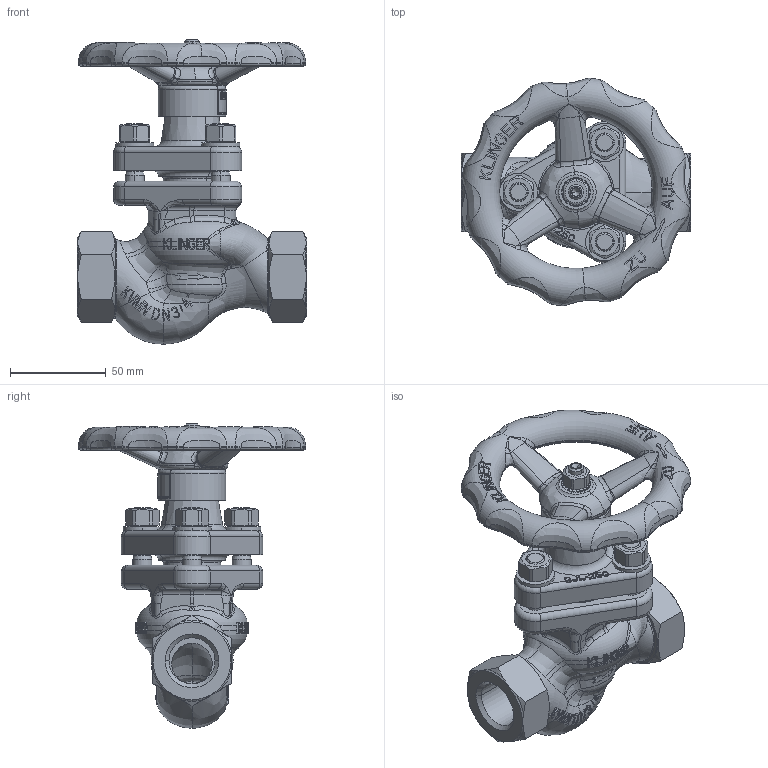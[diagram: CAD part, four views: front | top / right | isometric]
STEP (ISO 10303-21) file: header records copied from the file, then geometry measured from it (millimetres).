
FILE_DESCRIPTION((''),'2;1');
FILE_NAME('KVMN-G34S-----P016DGG_SW0001','2015-07-09T',('jeitlers'),('RAND'),'PRO/ENGINEER BY PARAMETRIC TECHNOLOGY CORPORATION, 2013410','PRO/ENGINEER BY PARAMETRIC TECHNOLOGY CORPORATION, 2013410','');
FILE_SCHEMA(('CONFIG_CONTROL_DESIGN'));
Products named in the file (1): KVMN-G34S-----P016DGG_SW0001
Bounding box: 120 x 119.05 x 159.25 mm (x, y, z)
Volume: 311750.4 mm3; surface area: 107112.3 mm2
Topology: 3 solids, 3 shells, 2572 faces, 6935 edges, 4430 vertices
Faces by surface type: plane 1479, bspline 481, cylinder 319, torus 148, cone 126, sphere 12, extrusion 7
Entity records: 144916 total; most frequent: CARTESIAN_POINT 86518, ORIENTED_EDGE 13862, DIRECTION 9661, EDGE_CURVE 6931, VERTEX_POINT 4430, AXIS2_PLACEMENT_3D 3388, VECTOR 2885, LINE 2878
